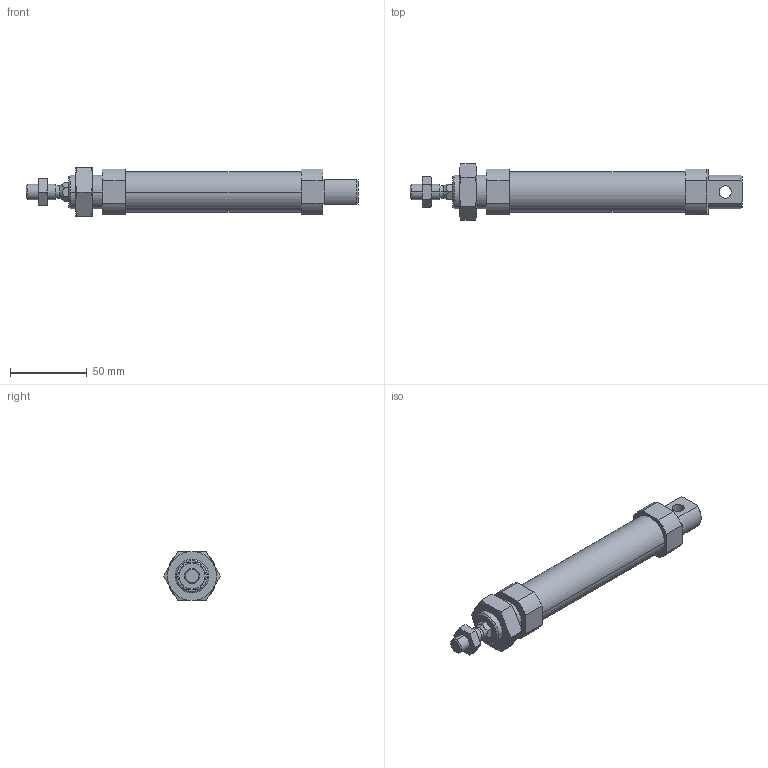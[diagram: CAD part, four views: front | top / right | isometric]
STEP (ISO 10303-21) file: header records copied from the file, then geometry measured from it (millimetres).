
FILE_DESCRIPTION (( 'STEP AP203' ), '1' );
FILE_NAME ('CSMK25-80.STEP', '2020-04-02T10:51:13', ( '' ), ( '' ), 'SwSTEP 2.0', 'SolidWorks 2019', '' );
FILE_SCHEMA (( 'CONFIG_CONTROL_DESIGN' ));
Length unit declared in the file: millimetre
Products named in the file (1): CSMK25-80
Bounding box: 217 x 36.95 x 32 mm (x, y, z)
Volume: 78902.2 mm3; surface area: 37361.4 mm2
Topology: 4 solids, 4 shells, 135 faces, 310 edges, 188 vertices
Faces by surface type: plane 53, cone 50, cylinder 32
Entity records: 4281 total; most frequent: CARTESIAN_POINT 1196, DIRECTION 632, ORIENTED_EDGE 612, EDGE_CURVE 306, AXIS2_PLACEMENT_3D 248, VERTEX_POINT 188, EDGE_LOOP 150, VECTOR 136
